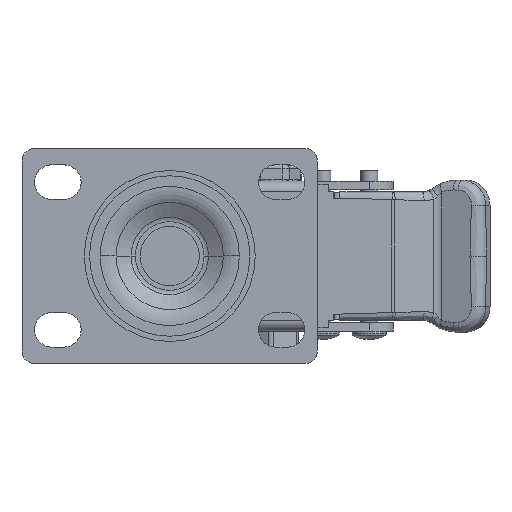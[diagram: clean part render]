
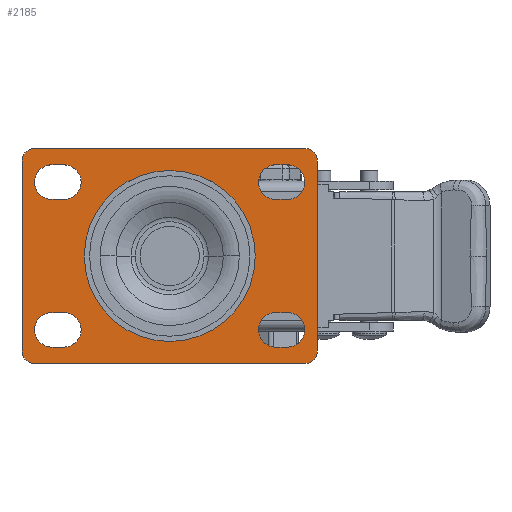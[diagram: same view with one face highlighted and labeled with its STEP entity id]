
A CAD part, top view. The second image highlights one B-rep face of the part: STEP entity #2185.
In plain terms, the highlighted planar face has unit normal (0, 0, 1).
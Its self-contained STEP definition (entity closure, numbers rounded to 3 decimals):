
#2185=ADVANCED_FACE('',(#8265,#8266,#8267,#8268,#8269,#8270),#3411,.F.);
#3411=PLANE('',#23959);
#4049=LINE('',#34870,#5649);
#4053=LINE('',#34882,#5653);
#4058=LINE('',#34900,#5658);
#4061=LINE('',#34909,#5661);
#4066=LINE('',#34924,#5666);
#4069=LINE('',#34933,#5669);
#4073=LINE('',#34942,#5673);
#4077=LINE('',#34954,#5677);
#4088=LINE('',#35046,#5688);
#4089=LINE('',#35051,#5689);
#4090=LINE('',#35055,#5690);
#4091=LINE('',#35059,#5691);
#5649=VECTOR('',#26360,1.);
#5653=VECTOR('',#26372,1.);
#5658=VECTOR('',#26391,1.);
#5661=VECTOR('',#26402,1.);
#5666=VECTOR('',#26415,1.);
#5669=VECTOR('',#26426,1.);
#5673=VECTOR('',#26432,1.);
#5677=VECTOR('',#26444,1.);
#5688=VECTOR('',#26565,1.);
#5689=VECTOR('',#26568,1.);
#5690=VECTOR('',#26571,1.);
#5691=VECTOR('',#26574,1.);
#7429=CIRCLE('',#23874,4.1);
#7431=CIRCLE('',#23878,4.1);
#7433=CIRCLE('',#23881,4.1);
#7435=CIRCLE('',#23885,4.1);
#7437=CIRCLE('',#23889,4.1);
#7439=CIRCLE('',#23893,4.1);
#7441=CIRCLE('',#23898,4.1);
#7443=CIRCLE('',#23902,4.1);
#7474=CIRCLE('',#23951,20.25);
#7475=CIRCLE('',#23953,20.25);
#7476=CIRCLE('',#23955,3.);
#7477=CIRCLE('',#23956,3.);
#7478=CIRCLE('',#23957,3.);
#7479=CIRCLE('',#23958,3.);
#8265=FACE_BOUND('',#8549,.T.);
#8266=FACE_BOUND('',#8550,.T.);
#8267=FACE_BOUND('',#8551,.T.);
#8268=FACE_BOUND('',#8552,.T.);
#8269=FACE_BOUND('',#8553,.T.);
#8270=FACE_BOUND('',#8554,.T.);
#8549=EDGE_LOOP('',(#10556,#10557,#10558,#10559,#10560,#10561,#10562,#10563));
#8550=EDGE_LOOP('',(#10564,#10565));
#8551=EDGE_LOOP('',(#10566,#10567,#10568,#10569));
#8552=EDGE_LOOP('',(#10570,#10571,#10572,#10573));
#8553=EDGE_LOOP('',(#10574,#10575,#10576,#10577));
#8554=EDGE_LOOP('',(#10578,#10579,#10580,#10581));
#10556=ORIENTED_EDGE('',*,*,#19649,.T.);
#10557=ORIENTED_EDGE('',*,*,#19650,.T.);
#10558=ORIENTED_EDGE('',*,*,#19651,.T.);
#10559=ORIENTED_EDGE('',*,*,#19652,.T.);
#10560=ORIENTED_EDGE('',*,*,#19653,.T.);
#10561=ORIENTED_EDGE('',*,*,#19654,.T.);
#10562=ORIENTED_EDGE('',*,*,#19655,.T.);
#10563=ORIENTED_EDGE('',*,*,#19656,.T.);
#10564=ORIENTED_EDGE('',*,*,#19645,.F.);
#10565=ORIENTED_EDGE('',*,*,#19648,.T.);
#10566=ORIENTED_EDGE('',*,*,#19604,.F.);
#10567=ORIENTED_EDGE('',*,*,#19601,.F.);
#10568=ORIENTED_EDGE('',*,*,#19598,.F.);
#10569=ORIENTED_EDGE('',*,*,#19606,.F.);
#10570=ORIENTED_EDGE('',*,*,#19592,.F.);
#10571=ORIENTED_EDGE('',*,*,#19589,.F.);
#10572=ORIENTED_EDGE('',*,*,#19586,.F.);
#10573=ORIENTED_EDGE('',*,*,#19594,.F.);
#10574=ORIENTED_EDGE('',*,*,#19580,.F.);
#10575=ORIENTED_EDGE('',*,*,#19577,.F.);
#10576=ORIENTED_EDGE('',*,*,#19574,.F.);
#10577=ORIENTED_EDGE('',*,*,#19582,.F.);
#10578=ORIENTED_EDGE('',*,*,#19568,.F.);
#10579=ORIENTED_EDGE('',*,*,#19565,.F.);
#10580=ORIENTED_EDGE('',*,*,#19562,.F.);
#10581=ORIENTED_EDGE('',*,*,#19570,.F.);
#17192=VERTEX_POINT('',#34864);
#17195=VERTEX_POINT('',#34869);
#17196=VERTEX_POINT('',#34873);
#17198=VERTEX_POINT('',#34879);
#17200=VERTEX_POINT('',#34888);
#17203=VERTEX_POINT('',#34893);
#17204=VERTEX_POINT('',#34897);
#17206=VERTEX_POINT('',#34903);
#17208=VERTEX_POINT('',#34912);
#17211=VERTEX_POINT('',#34917);
#17212=VERTEX_POINT('',#34921);
#17214=VERTEX_POINT('',#34927);
#17216=VERTEX_POINT('',#34936);
#17219=VERTEX_POINT('',#34941);
#17220=VERTEX_POINT('',#34945);
#17222=VERTEX_POINT('',#34951);
#17248=VERTEX_POINT('',#35039);
#17249=VERTEX_POINT('',#35040);
#17250=VERTEX_POINT('',#35047);
#17251=VERTEX_POINT('',#35048);
#17252=VERTEX_POINT('',#35050);
#17253=VERTEX_POINT('',#35052);
#17254=VERTEX_POINT('',#35054);
#17255=VERTEX_POINT('',#35056);
#17256=VERTEX_POINT('',#35058);
#17257=VERTEX_POINT('',#35060);
#19562=EDGE_CURVE('',#17195,#17192,#4049,.T.);
#19565=EDGE_CURVE('',#17192,#17196,#7429,.T.);
#19568=EDGE_CURVE('',#17196,#17198,#4053,.T.);
#19570=EDGE_CURVE('',#17198,#17195,#7431,.T.);
#19574=EDGE_CURVE('',#17203,#17200,#7433,.T.);
#19577=EDGE_CURVE('',#17200,#17204,#4058,.T.);
#19580=EDGE_CURVE('',#17204,#17206,#7435,.T.);
#19582=EDGE_CURVE('',#17206,#17203,#4061,.T.);
#19586=EDGE_CURVE('',#17211,#17208,#7437,.T.);
#19589=EDGE_CURVE('',#17208,#17212,#4066,.T.);
#19592=EDGE_CURVE('',#17212,#17214,#7439,.T.);
#19594=EDGE_CURVE('',#17214,#17211,#4069,.T.);
#19598=EDGE_CURVE('',#17219,#17216,#4073,.T.);
#19601=EDGE_CURVE('',#17216,#17220,#7441,.T.);
#19604=EDGE_CURVE('',#17220,#17222,#4077,.T.);
#19606=EDGE_CURVE('',#17222,#17219,#7443,.T.);
#19645=EDGE_CURVE('',#17248,#17249,#7474,.T.);
#19648=EDGE_CURVE('',#17248,#17249,#7475,.T.);
#19649=EDGE_CURVE('',#17250,#17251,#4088,.T.);
#19650=EDGE_CURVE('',#17251,#17252,#7476,.T.);
#19651=EDGE_CURVE('',#17252,#17253,#4089,.T.);
#19652=EDGE_CURVE('',#17253,#17254,#7477,.T.);
#19653=EDGE_CURVE('',#17254,#17255,#4090,.T.);
#19654=EDGE_CURVE('',#17255,#17256,#7478,.T.);
#19655=EDGE_CURVE('',#17256,#17257,#4091,.T.);
#19656=EDGE_CURVE('',#17257,#17250,#7479,.T.);
#23874=AXIS2_PLACEMENT_3D('',#34876,#26366,#26367);
#23878=AXIS2_PLACEMENT_3D('',#34885,#26377,#26378);
#23881=AXIS2_PLACEMENT_3D('',#34894,#26385,#26386);
#23885=AXIS2_PLACEMENT_3D('',#34906,#26397,#26398);
#23889=AXIS2_PLACEMENT_3D('',#34918,#26409,#26410);
#23893=AXIS2_PLACEMENT_3D('',#34930,#26421,#26422);
#23898=AXIS2_PLACEMENT_3D('',#34948,#26438,#26439);
#23902=AXIS2_PLACEMENT_3D('',#34957,#26449,#26450);
#23951=AXIS2_PLACEMENT_3D('',#35038,#26555,#26556);
#23953=AXIS2_PLACEMENT_3D('',#35044,#26561,#26562);
#23955=AXIS2_PLACEMENT_3D('',#35049,#26566,#26567);
#23956=AXIS2_PLACEMENT_3D('',#35053,#26569,#26570);
#23957=AXIS2_PLACEMENT_3D('',#35057,#26572,#26573);
#23958=AXIS2_PLACEMENT_3D('',#35061,#26575,#26576);
#23959=AXIS2_PLACEMENT_3D('',#35062,#26577,#26578);
#26360=DIRECTION('',(-1.,0.,0.));
#26366=DIRECTION('',(0.,0.,1.));
#26367=DIRECTION('',(0.,1.,0.));
#26372=DIRECTION('',(1.,0.,0.));
#26377=DIRECTION('',(0.,0.,1.));
#26378=DIRECTION('',(0.,-1.,0.));
#26385=DIRECTION('',(0.,0.,1.));
#26386=DIRECTION('',(0.,1.,0.));
#26391=DIRECTION('',(1.,0.,0.));
#26397=DIRECTION('',(0.,0.,1.));
#26398=DIRECTION('',(0.,-1.,0.));
#26402=DIRECTION('',(-1.,0.,0.));
#26409=DIRECTION('',(0.,0.,1.));
#26410=DIRECTION('',(0.,-1.,0.));
#26415=DIRECTION('',(-1.,0.,0.));
#26421=DIRECTION('',(0.,0.,1.));
#26422=DIRECTION('',(0.,1.,0.));
#26426=DIRECTION('',(1.,0.,0.));
#26432=DIRECTION('',(1.,0.,0.));
#26438=DIRECTION('',(0.,0.,1.));
#26439=DIRECTION('',(0.,-1.,0.));
#26444=DIRECTION('',(-1.,0.,0.));
#26449=DIRECTION('',(0.,0.,1.));
#26450=DIRECTION('',(0.,1.,0.));
#26555=DIRECTION('',(0.,0.,1.));
#26556=DIRECTION('',(-1.,0.,0.));
#26561=DIRECTION('',(0.,0.,-1.));
#26562=DIRECTION('',(-1.,0.,0.));
#26565=DIRECTION('',(0.,1.,0.));
#26566=DIRECTION('',(0.,0.,1.));
#26567=DIRECTION('',(1.,0.,0.));
#26568=DIRECTION('',(-1.,0.,0.));
#26569=DIRECTION('',(0.,0.,1.));
#26570=DIRECTION('',(0.,1.,0.));
#26571=DIRECTION('',(0.,-1.,0.));
#26572=DIRECTION('',(0.,0.,1.));
#26573=DIRECTION('',(-1.,0.,0.));
#26574=DIRECTION('',(1.,0.,0.));
#26575=DIRECTION('',(0.,0.,1.));
#26576=DIRECTION('',(0.,-1.,0.));
#26577=DIRECTION('',(0.,0.,-1.));
#26578=DIRECTION('',(-1.,0.,0.));
#34864=CARTESIAN_POINT('',(-27.9,-13.4,0.));
#34869=CARTESIAN_POINT('',(-25.1,-13.4,0.));
#34870=CARTESIAN_POINT('',(-25.1,-13.4,0.));
#34873=CARTESIAN_POINT('',(-27.9,-21.6,0.));
#34876=CARTESIAN_POINT('',(-27.9,-17.5,0.));
#34879=CARTESIAN_POINT('',(-25.1,-21.6,0.));
#34882=CARTESIAN_POINT('',(-27.9,-21.6,0.));
#34885=CARTESIAN_POINT('',(-25.1,-17.5,0.));
#34888=CARTESIAN_POINT('',(-27.9,13.4,0.));
#34893=CARTESIAN_POINT('',(-27.9,21.6,0.));
#34894=CARTESIAN_POINT('',(-27.9,17.5,0.));
#34897=CARTESIAN_POINT('',(-25.1,13.4,0.));
#34900=CARTESIAN_POINT('',(-27.9,13.4,0.));
#34903=CARTESIAN_POINT('',(-25.1,21.6,0.));
#34906=CARTESIAN_POINT('',(-25.1,17.5,0.));
#34909=CARTESIAN_POINT('',(-25.1,21.6,0.));
#34912=CARTESIAN_POINT('',(27.9,-13.4,0.));
#34917=CARTESIAN_POINT('',(27.9,-21.6,0.));
#34918=CARTESIAN_POINT('',(27.9,-17.5,0.));
#34921=CARTESIAN_POINT('',(25.1,-13.4,0.));
#34924=CARTESIAN_POINT('',(27.9,-13.4,0.));
#34927=CARTESIAN_POINT('',(25.1,-21.6,0.));
#34930=CARTESIAN_POINT('',(25.1,-17.5,0.));
#34933=CARTESIAN_POINT('',(25.1,-21.6,0.));
#34936=CARTESIAN_POINT('',(27.9,13.4,0.));
#34941=CARTESIAN_POINT('',(25.1,13.4,0.));
#34942=CARTESIAN_POINT('',(25.1,13.4,0.));
#34945=CARTESIAN_POINT('',(27.9,21.6,0.));
#34948=CARTESIAN_POINT('',(27.9,17.5,0.));
#34951=CARTESIAN_POINT('',(25.1,21.6,0.));
#34954=CARTESIAN_POINT('',(27.9,21.6,0.));
#34957=CARTESIAN_POINT('',(25.1,17.5,0.));
#35038=CARTESIAN_POINT('',(0.,0.,0.));
#35039=CARTESIAN_POINT('',(-20.25,0.,0.));
#35040=CARTESIAN_POINT('',(20.25,0.,0.));
#35044=CARTESIAN_POINT('',(0.,0.,0.));
#35046=CARTESIAN_POINT('',(35.,-22.5,0.));
#35047=CARTESIAN_POINT('',(35.,-22.5,0.));
#35048=CARTESIAN_POINT('',(35.,22.5,0.));
#35049=CARTESIAN_POINT('',(32.,22.5,0.));
#35050=CARTESIAN_POINT('',(32.,25.5,0.));
#35051=CARTESIAN_POINT('',(32.,25.5,0.));
#35052=CARTESIAN_POINT('',(-32.,25.5,0.));
#35053=CARTESIAN_POINT('',(-32.,22.5,0.));
#35054=CARTESIAN_POINT('',(-35.,22.5,0.));
#35055=CARTESIAN_POINT('',(-35.,22.5,0.));
#35056=CARTESIAN_POINT('',(-35.,-22.5,0.));
#35057=CARTESIAN_POINT('',(-32.,-22.5,0.));
#35058=CARTESIAN_POINT('',(-32.,-25.5,0.));
#35059=CARTESIAN_POINT('',(-32.,-25.5,0.));
#35060=CARTESIAN_POINT('',(32.,-25.5,0.));
#35061=CARTESIAN_POINT('',(32.,-22.5,0.));
#35062=CARTESIAN_POINT('',(0.,0.,0.));
